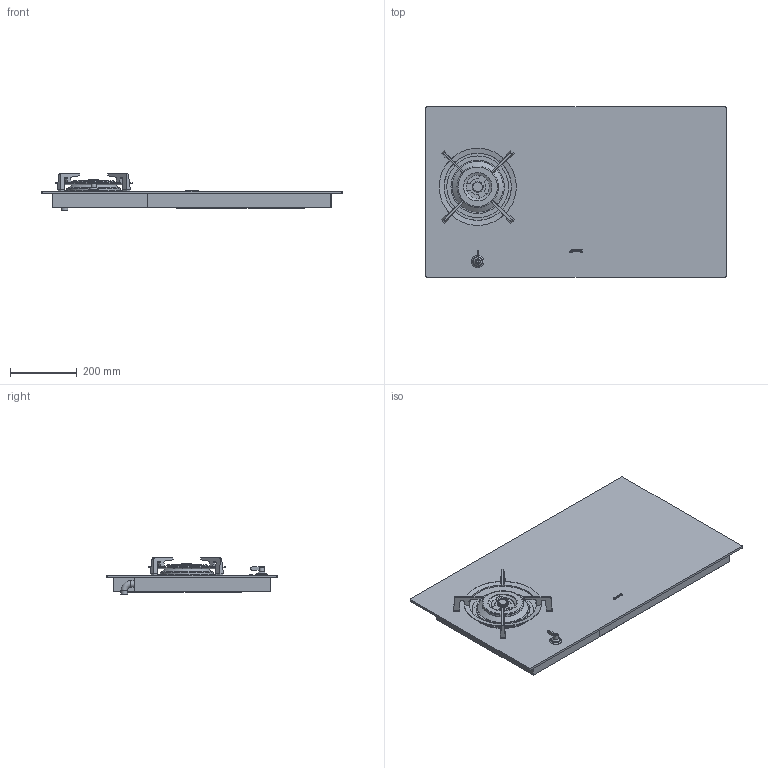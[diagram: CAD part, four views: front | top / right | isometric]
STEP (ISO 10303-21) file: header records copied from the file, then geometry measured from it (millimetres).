
FILE_DESCRIPTION(/* description */ (''),/* implementation_level */ '2;1');
FILE_NAME(/* name */ 'piano pm3912.stp',/* time_stamp */ '2018-09-27T13:55:39+02:00',/* author */ (''),/* organization */ (''),/* preprocessor_version */ 'ST-DEVELOPER v16',/* originating_system */ 'SIEMENS PLM Software NX 11.0',/* authorisation */ '');
FILE_SCHEMA (('AUTOMOTIVE_DESIGN { 1 0 10303 214 3 1 1 1 }'));
Length unit declared in the file: millimetre
Products named in the file (1): gobbA360CE4Fpbun
Bounding box: 900 x 510 x 108.5 mm (x, y, z)
Volume: 15459729.9 mm3; surface area: 2187351.9 mm2
Topology: 20 solids, 20 shells, 305 faces, 706 edges, 465 vertices
Faces by surface type: plane 188, cylinder 88, extrusion 11, torus 8, cone 7, revolution 3
Full cylindrical faces by diameter (mm): 3.37 x6, 6 x1, 14.996 x1, 17 x1, 20 x3, 23 x1, 23.5 x1, 25 x1, 28 x1, 32 x1, 79.5 x1, 85 x1, 89.5 x1, 90 x1, 98.5 x1, 106.5 x1, 111 x1, 113.5 x1, 122 x1, 124 x1, 152 x1, 160 x1, 170 x1, 185 x1, 231.327 x1
Entity records: 8800 total; most frequent: CARTESIAN_POINT 1822, DIRECTION 1402, ORIENTED_EDGE 1290, EDGE_CURVE 645, AXIS2_PLACEMENT_3D 489, VERTEX_POINT 455, VECTOR 421, LINE 410
